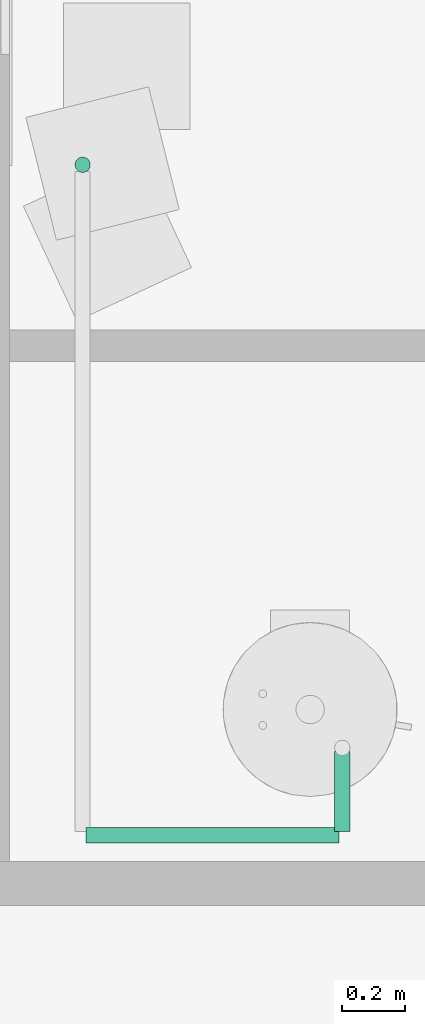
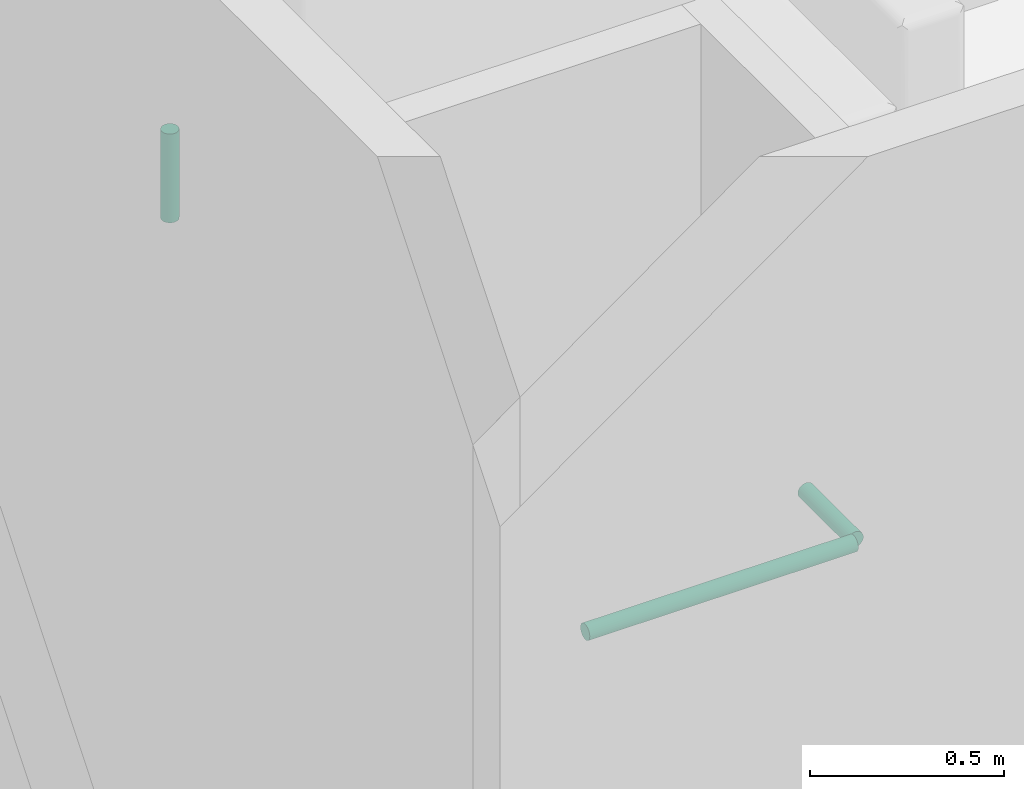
# One storey, part 44 of 69: 3 pipe segments.
"""IFC4 building model written with IfcOpenShell, lengths in centimetres."""

import ifcopenshell
import ifcopenshell.guid

model = None  # the IFC model being written
_history = None  # IfcOwnerHistory: only IFC2X3 demands one
_inside = {}  # id of a spatial element -> (the spatial element, [elements in it])
_under = {}  # id of a project, library or spatial element -> (it, [spatial elements below it])
_declared = {}  # id of a project -> (the project, [libraries it declares])
_typed = {}  # id of a type object -> (the type object, [elements of that type])
_made_of = {}  # id of a material, layer set ... -> (it, [elements and type objects made of it])


def new_model(schema):
    """Start an empty IFC model of exactly this schema.

    Asked for "IFC4X3", IfcOpenShell would pick the latest addendum, in which some entities
    have other attributes; the version numbers below select the first issue.
    IFC2X3 requires an IfcOwnerHistory on every rooted entity: one is made here for all.
    """
    global model, _history
    if schema == "IFC4X3":
        model = ifcopenshell.file(schema_version=(4, 3, 0, 0))
    else:
        model = ifcopenshell.file(schema=schema)
    _inside.clear()
    _under.clear()
    _declared.clear()
    _typed.clear()
    _made_of.clear()
    _history = None
    if model.schema == "IFC2X3":
        org = make("IfcOrganization", Name="unknown")
        user = make(
            "IfcPersonAndOrganization",
            ThePerson=make("IfcPerson", FamilyName="unknown"),
            TheOrganization=org,
        )
        app = make(
            "IfcApplication",
            ApplicationDeveloper=org,
            Version="unknown",
            ApplicationFullName="unknown",
            ApplicationIdentifier="unknown",
        )
        _history = make(
            "IfcOwnerHistory",
            OwningUser=user,
            OwningApplication=app,
            ChangeAction="ADDED",
            CreationDate=0,
        )
    return model


def make(cls, **values):
    """One entity of the class cls with the attributes given. An attribute that is None is left unset."""
    return model.create_entity(
        cls, **{name: value for name, value in values.items() if value is not None}
    )


def entity(cls, *values):
    """Any entity or typed value of the class cls, its attributes in the order of the schema. None: left unset."""
    e = model.create_entity(cls)
    for i, value in enumerate(values):
        if value is not None:
            e[i] = value
    return e


def rooted(cls, **values):
    """An entity with a GlobalId (a new one), such as an element, a storey or a relation."""
    return make(cls, GlobalId=ifcopenshell.guid.new(), OwnerHistory=_history, **values)


def si_unit(unit_type, name, prefix=None):
    """IfcSIUnit, for example si_unit("LENGTHUNIT", "METRE", prefix="MILLI")."""
    return make("IfcSIUnit", UnitType=unit_type, Prefix=prefix, Name=name)


def converted_unit(unit_type, name, factor, base, dimensions=None, offset=None):
    """IfcConversionBasedUnit, such as the inch: factor (a typed value) times the base unit."""
    return make(
        "IfcConversionBasedUnit"
        if offset is None
        else "IfcConversionBasedUnitWithOffset",
        ConversionOffset=offset,
        Dimensions=None
        if dimensions is None
        else entity("IfcDimensionalExponents", *dimensions),
        UnitType=unit_type,
        Name=name,
        ConversionFactor=make(
            "IfcMeasureWithUnit", ValueComponent=factor, UnitComponent=base
        ),
    )


def derived_unit(unit_type, elements):
    """IfcDerivedUnit: a product of units, each with its exponent."""
    return make(
        "IfcDerivedUnit",
        Elements=[
            make("IfcDerivedUnitElement", Unit=unit, Exponent=power)
            for unit, power in elements
        ],
        UnitType=unit_type,
    )


def assignment(units):
    """IfcUnitAssignment: the units of a project."""
    return None if units is None else make("IfcUnitAssignment", Units=units)


def point(xyz):
    """IfcCartesianPoint."""
    return None if xyz is None else make("IfcCartesianPoint", Coordinates=xyz)


def direction(xyz):
    """IfcDirection."""
    return None if xyz is None else make("IfcDirection", DirectionRatios=xyz)


def frame(location, z_axis=None, x_axis=None):
    """IfcAxis2Placement3D, a coordinate frame: its origin and axes. An axis left out is left unset."""
    return make(
        "IfcAxis2Placement3D",
        Location=point(location),
        Axis=direction(z_axis),
        RefDirection=direction(x_axis),
    )


def origin():
    """The frame at (0, 0, 0) with its axes left unset."""
    return frame((0.0, 0.0, 0.0))


def place(relative_to, where):
    """IfcLocalPlacement: puts the frame where relative to a parent placement (None: the world)."""
    return make(
        "IfcLocalPlacement", PlacementRelTo=relative_to, RelativePlacement=where
    )


def context(
    kind, dimensions, precision=None, world=None, true_north=None, identifier=None
):
    """IfcGeometricRepresentationContext, for example the 3D "Model" context."""
    return make(
        "IfcGeometricRepresentationContext",
        ContextIdentifier=identifier,
        ContextType=kind,
        CoordinateSpaceDimension=dimensions,
        Precision=precision,
        WorldCoordinateSystem=world,
        TrueNorth=true_north,
    )


def subcontext(parent, identifier, kind, view, scale=None):
    """IfcGeometricRepresentationSubContext, for example "Body" below "Model"."""
    return make(
        "IfcGeometricRepresentationSubContext",
        ContextIdentifier=identifier,
        ContextType=kind,
        ParentContext=parent,
        TargetScale=scale,
        TargetView=view,
    )


def project(units=None, contexts=None):
    """IfcProject with its units and contexts."""
    return rooted(
        "IfcProject",
        Name="project",
        RepresentationContexts=contexts,
        UnitsInContext=assignment(units),
    )


def spatial(cls, under=None, at=None, **own):
    """A site, building, storey or space (cls), placed at a placement, below another one or the project."""
    s = rooted(cls, ObjectPlacement=at, **own)
    if under is not None:
        _under.setdefault(under.id(), (under, []))[1].append(s)
    return s


def point_list(points):
    """IfcCartesianPointList2D or 3D."""
    cls = (
        "IfcCartesianPointList2D" if len(points[0]) == 2 else "IfcCartesianPointList3D"
    )
    return make(cls, CoordList=points)


def arc(*indices):
    """IfcArcIndex: an arc through three numbered points of an indexed curve."""
    return model.create_entity("IfcArcIndex", indices)


def indexed_curve(points, segments=None, self_intersect=None):
    """IfcIndexedPolyCurve: lines and arcs through numbered points (the first is 1)."""
    return make(
        "IfcIndexedPolyCurve",
        Points=point_list(points),
        Segments=segments,
        SelfIntersect=self_intersect,
    )


def outline(outer, holes=None, kind="AREA"):
    """IfcArbitraryClosedProfileDef: a profile drawn as a closed curve; with holes, ...WithVoids."""
    if holes is None:
        return make("IfcArbitraryClosedProfileDef", ProfileType=kind, OuterCurve=outer)
    return make(
        "IfcArbitraryProfileDefWithVoids",
        ProfileType=kind,
        OuterCurve=outer,
        InnerCurves=holes,
    )


def extrude(swept, where, along, depth):
    """IfcExtrudedAreaSolid: the profile swept, set in the frame where, extruded along a direction by depth."""
    return make(
        "IfcExtrudedAreaSolid",
        SweptArea=swept,
        Position=where,
        ExtrudedDirection=direction(along),
        Depth=depth,
    )


def shape(context_of_items, identifier, shape_type, items):
    """IfcShapeRepresentation: the items that make up one representation, for example the "Body"."""
    return make(
        "IfcShapeRepresentation",
        ContextOfItems=context_of_items,
        RepresentationIdentifier=identifier,
        RepresentationType=shape_type,
        Items=items,
    )


def made_of(thing, what):
    """Note that an element or type object is made of a material, layer set ...; save() writes the relation."""
    if what is not None:
        _made_of.setdefault(what.id(), (what, []))[1].append(thing)
    return thing


def type_object(cls, material=None, **own):
    """A type object (cls), such as IfcWallType, which elements share."""
    return made_of(rooted(cls, **own), material)


def element(
    cls,
    number,
    at=None,
    inside=None,
    cuts=None,
    type_object=None,
    material=None,
    context=None,
    identifier="Body",
    shape_type=None,
    held_by="IfcProductDefinitionShape",
    body=None,
    shapes=None,
    **own,
):
    """One element of the class cls, such as IfcWall. Its Tag is "e" and its number.

    at: its placement. inside: the storey or other place that contains it. cuts: it is an
    opening in that element (IfcRelVoidsElement). A single representation is given by context,
    identifier, shape_type and body (its items); several are given by shapes. held_by: the class
    of the entity that holds the representations. save() writes the other relations.
    """
    e = rooted(cls, Tag="e%d" % number, ObjectPlacement=at, **own)
    if body is not None:
        shapes = [shape(context, identifier, shape_type, body)]
    if shapes is not None:
        e.Representation = make(held_by, Representations=shapes)
    if inside is not None:
        _inside.setdefault(inside.id(), (inside, []))[1].append(e)
    if cuts is not None:
        rooted(
            "IfcRelVoidsElement", RelatingBuildingElement=cuts, RelatedOpeningElement=e
        )
    if type_object is not None:
        _typed.setdefault(type_object.id(), (type_object, []))[1].append(e)
    return made_of(e, material)


def aggregate(whole, parts):
    """IfcRelAggregates: a whole, such as a stair, and the parts it consists of."""
    return rooted("IfcRelAggregates", RelatingObject=whole, RelatedObjects=parts)


def save(model, path):
    """Write the relations noted so far, then the file.

    IfcRelAggregates (storeys below a building ...), IfcRelContainedInSpatialStructure (elements
    in a storey), IfcRelDefinesByType, IfcRelAssociatesMaterial and IfcRelDeclares: one each for
    every whole, place, type object, material and project.
    """
    for whole, parts in _under.values():
        aggregate(whole, parts)
    for where, things in _inside.values():
        rooted(
            "IfcRelContainedInSpatialStructure",
            RelatedElements=things,
            RelatingStructure=where,
        )
    for kind, things in _typed.values():
        rooted("IfcRelDefinesByType", RelatedObjects=things, RelatingType=kind)
    for what, things in _made_of.values():
        rooted("IfcRelAssociatesMaterial", RelatedObjects=things, RelatingMaterial=what)
    for by, libraries in _declared.values():
        rooted("IfcRelDeclares", RelatingContext=by, RelatedDefinitions=libraries)
    model.write(path)


model = new_model("IFC4")

# Units and contexts
model_context = context("Model", 3, precision=0.001, world=origin(), true_north=direction((6.123233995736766e-17, 1.0)))
body_context = subcontext(model_context, "Body", "Model", "MODEL_VIEW")
ifc_project = project(units=[si_unit("LENGTHUNIT", "METRE", prefix="CENTI"), si_unit("AREAUNIT", "SQUARE_METRE"), si_unit("VOLUMEUNIT", "CUBIC_METRE"), derived_unit("THERMALTRANSMITTANCEUNIT", [(si_unit("MASSUNIT", "GRAM", prefix="KILO"), 1), (si_unit("THERMODYNAMICTEMPERATUREUNIT", "KELVIN"), -1), (si_unit("TIMEUNIT", "SECOND"), -3)]), converted_unit("PLANEANGLEUNIT", "DEGREE", entity("IfcPlaneAngleMeasure", 0.017453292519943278), si_unit("PLANEANGLEUNIT", "RADIAN"), dimensions=[0, 0, 0, 0, 0, 0, 0]), derived_unit("MASSDENSITYUNIT", [(si_unit("MASSUNIT", "GRAM", prefix="KILO"), 1), (si_unit("LENGTHUNIT", "METRE"), -3)]), derived_unit("VAPORPERMEABILITYUNIT", [(si_unit("LENGTHUNIT", "METRE"), -1), (si_unit("TIMEUNIT", "SECOND"), 1)]), derived_unit("USERDEFINED", [(si_unit("MASSUNIT", "GRAM", prefix="KILO"), 1), (si_unit("TIMEUNIT", "SECOND"), -3), (si_unit("LENGTHUNIT", "METRE"), 3), (si_unit("ELECTRICCURRENTUNIT", "AMPERE"), -2)]), derived_unit("SPECIFICHEATCAPACITYUNIT", [(si_unit("THERMODYNAMICTEMPERATUREUNIT", "KELVIN"), -1), (si_unit("LENGTHUNIT", "METRE"), 2), (si_unit("TIMEUNIT", "SECOND"), -2)]), derived_unit("THERMALCONDUCTANCEUNIT", [(si_unit("MASSUNIT", "GRAM", prefix="KILO"), 1), (si_unit("THERMODYNAMICTEMPERATUREUNIT", "KELVIN"), -1), (si_unit("TIMEUNIT", "SECOND"), -3), (si_unit("LENGTHUNIT", "METRE"), 1)]), si_unit("PRESSUREUNIT", "PASCAL"), derived_unit("MODULUSOFELASTICITYUNIT", [(si_unit("MASSUNIT", "GRAM", prefix="KILO"), 1), (si_unit("LENGTHUNIT", "METRE"), -1), (si_unit("TIMEUNIT", "SECOND"), -2)]), derived_unit("THERMALEXPANSIONCOEFFICIENTUNIT", [(si_unit("THERMODYNAMICTEMPERATUREUNIT", "KELVIN"), -1)])], contexts=[model_context])

# Site, building, storey
site_placement = place(None, origin())
site = spatial("IfcSite", under=ifc_project, at=site_placement, Name="Default", CompositionType="ELEMENT")
building_placement = place(site_placement, origin())
building = spatial("IfcBuilding", under=site, at=building_placement, Name="IDS Escape Game Building", CompositionType="ELEMENT")
storey_placement = place(building_placement, origin())
storey = spatial("IfcBuildingStorey", under=building, at=storey_placement, Name="00_Ground Floor", CompositionType="ELEMENT", Elevation=0.0)

# Pipe segments
pipe_segment_type = type_object("IfcPipeSegmentType", Name="Pipe Types:Piping Aluminum", PredefinedType="NOTDEFINED")
pipe_segment_1_placement = place(storey_placement, origin())
element("IfcPipeSegment", 1, at=pipe_segment_1_placement, inside=storey, type_object=pipe_segment_type, Name="Pipe Types:Piping Aluminum", ObjectType="Pipe Types:Piping Aluminum", PredefinedType="NOTDEFINED", context=body_context, shape_type="SweptSolid", body=[
    extrude(outline(indexed_curve([(2.412999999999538, -2.165734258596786e-13), (1.7062486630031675, 1.7062486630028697), (4.331468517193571e-13, 2.4130000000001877), (-1.706248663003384, 1.7062486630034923), (-2.4130000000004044, -1.6243006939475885e-13), (-1.7062486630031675, -1.706248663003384), (4.3314685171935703e-13, -2.412999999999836), (1.7062486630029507, -1.7062486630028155)], segments=[arc(1, 2, 3), arc(3, 4, 5), arc(5, 6, 7), arc(7, 8, 1)], self_intersect=False)), frame((2983.146716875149, 1297.2648279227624, 242.0), z_axis=(1.0, 0.0, 0.0), x_axis=(0.0, 1.0, 0.0)), (0.0, 0.0, 1.0), 79.90328312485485),
])
pipe_segment_2_placement = place(storey_placement, origin())
element("IfcPipeSegment", 2, at=pipe_segment_2_placement, inside=storey, type_object=pipe_segment_type, Name="Pipe Types:Piping Aluminum", ObjectType="Pipe Types:Piping Aluminum", PredefinedType="NOTDEFINED", context=body_context, shape_type="SweptSolid", body=[
    extrude(outline(indexed_curve([(2.4129999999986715, -2.7071678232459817e-14), (1.7062486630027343, 1.7062486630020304), (1.7325874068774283e-12, 2.412999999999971), (-1.7062486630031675, 1.7062486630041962), (-2.413000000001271, -2.7071678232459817e-14), (-1.7062486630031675, -1.7062486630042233), (1.7325874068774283e-12, -2.413000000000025), (1.7062486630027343, -1.7062486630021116)], segments=[arc(1, 2, 3), arc(3, 4, 5), arc(5, 6, 7), arc(7, 8, 1)], self_intersect=False)), frame((3064.1500000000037, 1298.3648279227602, 242.0), z_axis=(0.0, 1.0, 0.0), x_axis=(-1.0, 0.0, 0.0)), (0.0, 0.0, 1.0), 25.43517207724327),
])
pipe_segment_3_placement = place(storey_placement, origin())
element("IfcPipeSegment", 3, at=pipe_segment_3_placement, inside=storey, type_object=pipe_segment_type, Name="Pipe Types:Piping Aluminum", ObjectType="Pipe Types:Piping Aluminum", PredefinedType="NOTDEFINED", context=body_context, shape_type="SweptSolid", body=[
    extrude(outline(indexed_curve([(2.412999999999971, 0.0), (1.7062486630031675, 1.7062486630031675), (0.0, 2.412999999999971), (-1.7062486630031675, 1.7062486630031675), (-2.412999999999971, 0.0), (-1.7062486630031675, -1.7062486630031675), (0.0, -2.412999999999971), (1.7062486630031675, -1.7062486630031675)], segments=[arc(1, 2, 3), arc(3, 4, 5), arc(5, 6, 7), arc(7, 8, 1)], self_intersect=False)), frame((2982.0467168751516, 1509.2648279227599, 244.0999999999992), z_axis=(0.0, 0.0, 1.0), x_axis=(-1.0, 0.0, 0.0)), (0.0, 0.0, 1.0), 27.90000000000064),
])

save(model, "model.ifc")
